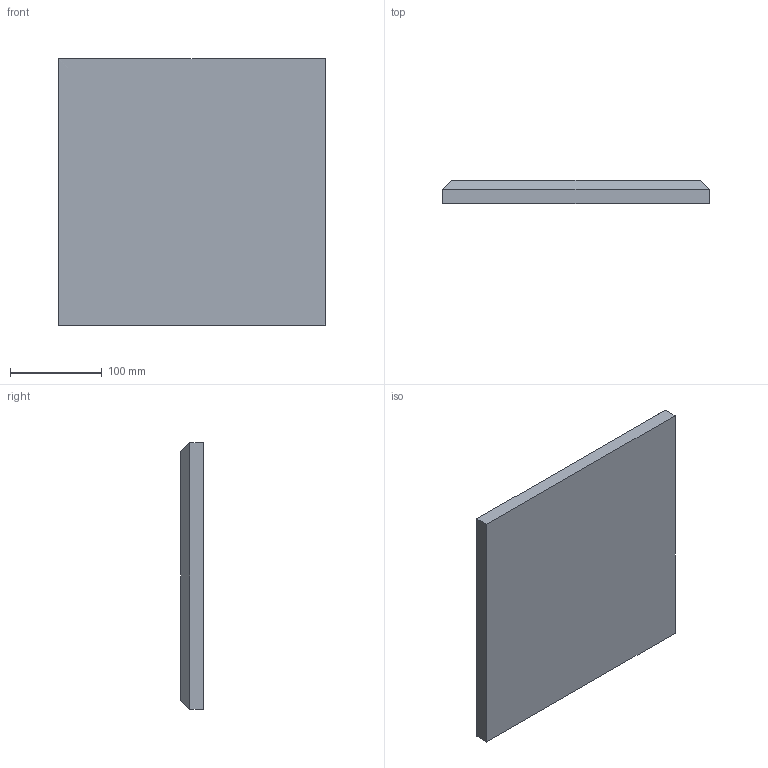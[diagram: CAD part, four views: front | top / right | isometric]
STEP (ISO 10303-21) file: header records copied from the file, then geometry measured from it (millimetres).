
FILE_DESCRIPTION (( 'STEP AP214' ), '1' );
FILE_NAME ('Pixel_25.STEP', '2016-06-08T07:19:25', ( '' ), ( '' ), 'SwSTEP 2.0', 'SolidWorks 2014', '' );
FILE_SCHEMA (( 'AUTOMOTIVE_DESIGN' ));
Length unit declared in the file: millimetre
Products named in the file (1): Pixel_25
Bounding box: 290 x 25 x 290 mm (x, y, z)
Volume: 2045833.3 mm3; surface area: 190239.2 mm2
Topology: 1 solids, 1 shells, 10 faces, 20 edges, 12 vertices
Faces by surface type: plane 10
Entity records: 286 total; most frequent: CARTESIAN_POINT 43, DIRECTION 42, ORIENTED_EDGE 40, LINE 20, EDGE_CURVE 20, VECTOR 20, VERTEX_POINT 12, AXIS2_PLACEMENT_3D 11
